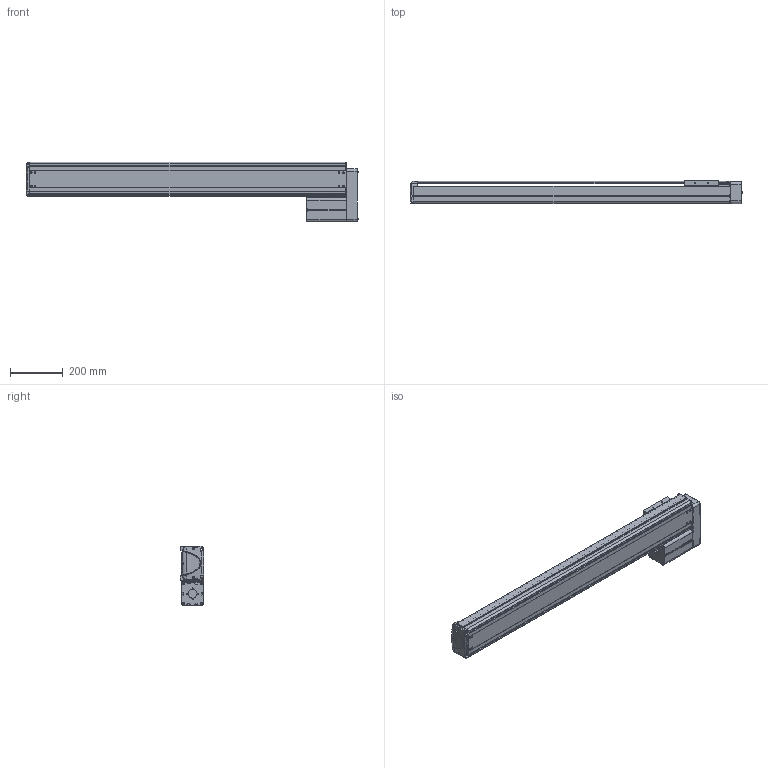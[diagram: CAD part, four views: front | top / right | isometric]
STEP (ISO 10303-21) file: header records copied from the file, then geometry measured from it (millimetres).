
FILE_DESCRIPTION((''),'2;1');
FILE_NAME('BE30E-UL-M_N-A0_IGS_PRT','2017-06-17T',(' '),(''),'PRO/ENGINEER BY PARAMETRIC TECHNOLOGY CORPORATION, 2015030','PRO/ENGINEER BY PARAMETRIC TECHNOLOGY CORPORATION, 2015030','');
FILE_SCHEMA(('CONFIG_CONTROL_DESIGN'));
Length unit declared in the file: millimetre
Products named in the file (1): BE30E-UL-M_N-A0_IGS_PRT
Bounding box: 1261.9 x 89.8 x 227 mm (x, y, z)
Volume: 4103219.3 mm3; surface area: 1736134 mm2
Topology: 2 solids, 129 shells, 2057 faces, 5548 edges, 3608 vertices
Faces by surface type: plane 996, cylinder 871, cone 101, torus 37, bspline 28, sphere 24
Entity records: 66663 total; most frequent: CARTESIAN_POINT 14122, DIRECTION 11105, ORIENTED_EDGE 10537, EDGE_CURVE 5510, AXIS2_PLACEMENT_3D 3926, VERTEX_POINT 3608, VECTOR 3253, LINE 3253
